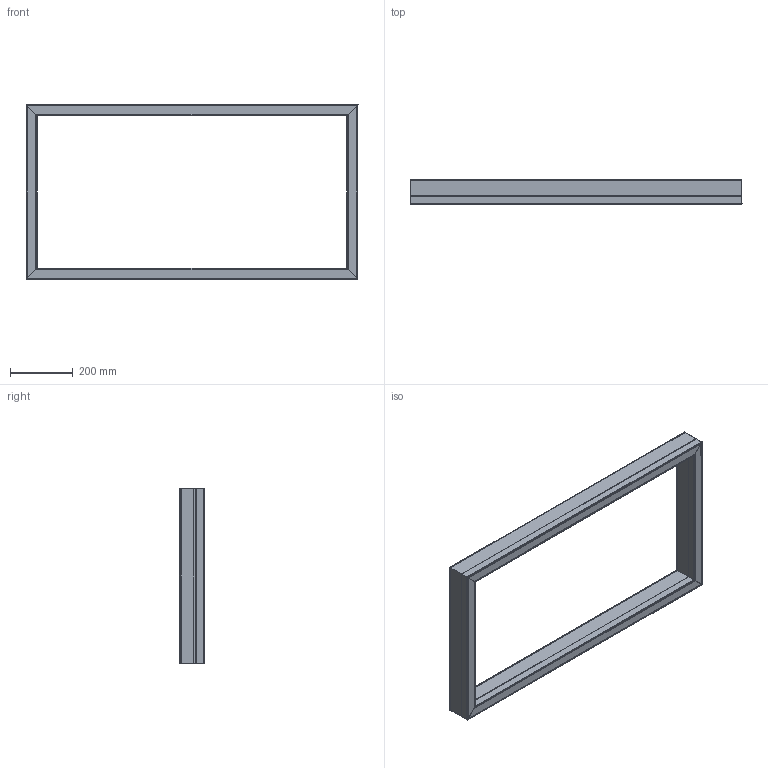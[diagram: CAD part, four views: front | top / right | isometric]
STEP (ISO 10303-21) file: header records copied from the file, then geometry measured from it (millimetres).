
FILE_DESCRIPTION(('STEP AP203'), '1');
FILE_NAME('Ìàòèê Ðåêîí 60Âò', '', ('UNSPECIFIED'), ('UNSPECIFIED'), 'ASCON STEP Converter 1.6', 'ASCON Math Kernel', '');
FILE_SCHEMA(('CONFIG_CONTROL_DESIGN'));
Length unit declared in the file: millimetre
Products named in the file (5): -01
Assembly tree (4 placements, depth 2):
  (unnamed)
    (unnamed)
    (unnamed)
    (unnamed)
    -01
Bounding box: 1056 x 80 x 556 mm (x, y, z)
Volume: 1237742.6 mm3; surface area: 1936423.1 mm2
Topology: 9 solids, 9 shells, 731 faces, 2131 edges, 1420 vertices
Faces by surface type: cylinder 397, plane 332, torus 2
Full cylindrical faces by diameter (mm): 8 x1, 10 x2, 14 x2
Entity records: 24258 total; most frequent: CARTESIAN_POINT 6680, ORIENTED_EDGE 4248, DIRECTION 2824, EDGE_CURVE 2124, VERTEX_POINT 1420, LINE 1328, VECTOR 1328, EDGE_LOOP 752
